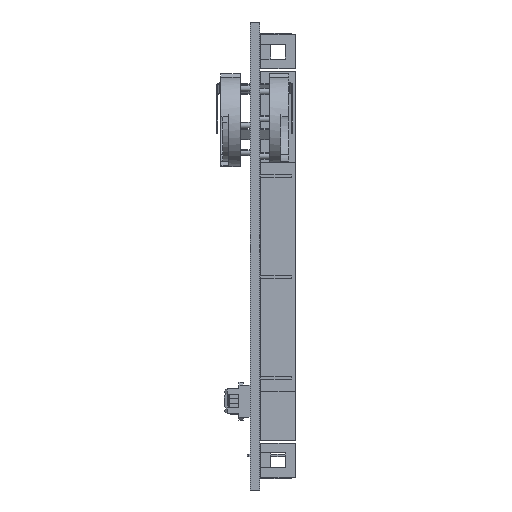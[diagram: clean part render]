
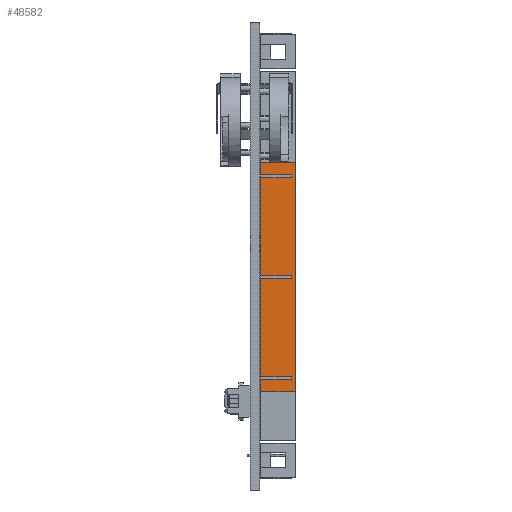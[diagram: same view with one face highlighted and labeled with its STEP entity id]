
A CAD part, left-side view. The second image highlights one B-rep face of the part: STEP entity #48582.
In plain terms, the highlighted planar face has unit normal (-1, 0, 0).
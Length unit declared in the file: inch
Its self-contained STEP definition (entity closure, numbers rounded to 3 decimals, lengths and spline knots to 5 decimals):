
#13185=DIRECTION('',(0.,0.,1.));
#13186=VECTOR('',#13185,2.3);
#13187=CARTESIAN_POINT('',(-4.02519,-0.35827,-1.712));
#13188=LINE('',#13187,#13186);
#13269=DIRECTION('',(0.,0.,1.));
#13270=VECTOR('',#13269,0.98465);
#13271=CARTESIAN_POINT('',(-4.02519,-0.01181,
-1.56043));
#13272=LINE('',#13271,#13270);
#13273=DIRECTION('',(0.,-1.,0.));
#13274=VECTOR('',#13273,0.30709);
#13275=CARTESIAN_POINT('',(-4.02519,-0.01181,
-0.57578));
#13276=LINE('',#13275,#13274);
#13277=DIRECTION('',(0.,1.,0.));
#13278=VECTOR('',#13277,0.30709);
#13279=CARTESIAN_POINT('',(-4.02519,-0.3189,
-0.54822));
#13280=LINE('',#13279,#13278);
#13281=DIRECTION('',(0.,0.,1.));
#13282=VECTOR('',#13281,0.98465);
#13283=CARTESIAN_POINT('',(-4.02519,-0.01181,
-0.54822));
#13284=LINE('',#13283,#13282);
#13285=DIRECTION('',(0.,-1.,0.));
#13286=VECTOR('',#13285,0.30709);
#13287=CARTESIAN_POINT('',(-4.02519,-0.01181,
0.43643));
#13288=LINE('',#13287,#13286);
#13289=DIRECTION('',(0.,1.,0.));
#13290=VECTOR('',#13289,0.30709);
#13291=CARTESIAN_POINT('',(-4.02519,-0.3189,
0.46398));
#13292=LINE('',#13291,#13290);
#13293=DIRECTION('',(0.,0.,1.));
#13294=VECTOR('',#13293,0.12402);
#13295=CARTESIAN_POINT('',(-4.02519,-0.01181,
0.46398));
#13296=LINE('',#13295,#13294);
#13297=DIRECTION('',(0.,-1.,0.));
#13298=VECTOR('',#13297,0.34646);
#13299=CARTESIAN_POINT('',(-4.02519,-0.01181,0.588));
#13300=LINE('',#13299,#13298);
#13301=DIRECTION('',(0.,1.,0.));
#13302=VECTOR('',#13301,0.34646);
#13303=CARTESIAN_POINT('',(-4.02519,-0.35827,-1.712));
#13304=LINE('',#13303,#13302);
#13305=DIRECTION('',(0.,0.,1.));
#13306=VECTOR('',#13305,0.12402);
#13307=CARTESIAN_POINT('',(-4.02519,-0.01181,-1.712));
#13308=LINE('',#13307,#13306);
#13309=DIRECTION('',(0.,-1.,0.));
#13310=VECTOR('',#13309,0.30709);
#13311=CARTESIAN_POINT('',(-4.02519,-0.01181,
-1.58798));
#13312=LINE('',#13311,#13310);
#13313=DIRECTION('',(0.,1.,0.));
#13314=VECTOR('',#13313,0.30709);
#13315=CARTESIAN_POINT('',(-4.02519,-0.3189,
-1.56043));
#13316=LINE('',#13315,#13314);
#13341=DIRECTION('',(0.,0.,-1.));
#13342=VECTOR('',#13341,0.02756);
#13343=CARTESIAN_POINT('',(-4.02519,-0.3189,
-0.54822));
#13344=LINE('',#13343,#13342);
#13377=DIRECTION('',(0.,0.,-1.));
#13378=VECTOR('',#13377,0.02756);
#13379=CARTESIAN_POINT('',(-4.02519,-0.3189,
0.46398));
#13380=LINE('',#13379,#13378);
#13413=DIRECTION('',(0.,0.,-1.));
#13414=VECTOR('',#13413,0.02756);
#13415=CARTESIAN_POINT('',(-4.02519,-0.3189,
-1.56043));
#13416=LINE('',#13415,#13414);
#25301=CARTESIAN_POINT('',(-4.02519,-0.01181,0.588));
#25302=VERTEX_POINT('',#25301);
#25303=CARTESIAN_POINT('',(-4.02519,-0.01181,
0.46398));
#25304=VERTEX_POINT('',#25303);
#25309=CARTESIAN_POINT('',(-4.02519,-0.01181,
0.43643));
#25310=VERTEX_POINT('',#25309);
#25311=CARTESIAN_POINT('',(-4.02519,-0.01181,
-0.54822));
#25312=VERTEX_POINT('',#25311);
#25317=CARTESIAN_POINT('',(-4.02519,-0.01181,
-0.57578));
#25318=VERTEX_POINT('',#25317);
#25319=CARTESIAN_POINT('',(-4.02519,-0.01181,
-1.56043));
#25320=VERTEX_POINT('',#25319);
#25325=CARTESIAN_POINT('',(-4.02519,-0.01181,
-1.58798));
#25326=VERTEX_POINT('',#25325);
#25327=CARTESIAN_POINT('',(-4.02519,-0.01181,-1.712));
#25328=VERTEX_POINT('',#25327);
#25699=CARTESIAN_POINT('',(-4.02519,-0.3189,
-1.56043));
#25700=VERTEX_POINT('',#25699);
#25703=CARTESIAN_POINT('',(-4.02519,-0.3189,
-1.58798));
#25704=VERTEX_POINT('',#25703);
#25705=CARTESIAN_POINT('',(-4.02519,-0.35827,-1.712));
#25706=VERTEX_POINT('',#25705);
#25727=CARTESIAN_POINT('',(-4.02519,-0.35827,0.588));
#25728=VERTEX_POINT('',#25727);
#25731=CARTESIAN_POINT('',(-4.02519,-0.3189,
0.46398));
#25732=VERTEX_POINT('',#25731);
#25735=CARTESIAN_POINT('',(-4.02519,-0.3189,
0.43643));
#25736=VERTEX_POINT('',#25735);
#25739=CARTESIAN_POINT('',(-4.02519,-0.3189,
-0.54822));
#25740=VERTEX_POINT('',#25739);
#25743=CARTESIAN_POINT('',(-4.02519,-0.3189,
-0.57578));
#25744=VERTEX_POINT('',#25743);
#48550=CARTESIAN_POINT('',(-4.02519,-0.18504,-0.562));
#48551=DIRECTION('',(1.,0.,0.));
#48552=DIRECTION('',(0.,0.,1.));
#48553=AXIS2_PLACEMENT_3D('',#48550,#48551,#48552);
#48554=PLANE('',#48553);
#48555=ORIENTED_EDGE('',*,*,#47270,.T.);
#48557=ORIENTED_EDGE('',*,*,#48556,.T.);
#48559=ORIENTED_EDGE('',*,*,#48558,.F.);
#48561=ORIENTED_EDGE('',*,*,#48560,.T.);
#48562=ORIENTED_EDGE('',*,*,#47262,.T.);
#48564=ORIENTED_EDGE('',*,*,#48563,.T.);
#48566=ORIENTED_EDGE('',*,*,#48565,.F.);
#48568=ORIENTED_EDGE('',*,*,#48567,.T.);
#48569=ORIENTED_EDGE('',*,*,#47254,.T.);
#48570=ORIENTED_EDGE('',*,*,#48387,.T.);
#48571=ORIENTED_EDGE('',*,*,#48418,.F.);
#48572=ORIENTED_EDGE('',*,*,#48538,.T.);
#48573=ORIENTED_EDGE('',*,*,#47278,.T.);
#48575=ORIENTED_EDGE('',*,*,#48574,.T.);
#48577=ORIENTED_EDGE('',*,*,#48576,.F.);
#48579=ORIENTED_EDGE('',*,*,#48578,.T.);
#48580=EDGE_LOOP('',(#48555,#48557,#48559,#48561,#48562,#48564,#48566,#48568,
#48569,#48570,#48571,#48572,#48573,#48575,#48577,#48579));
#48581=FACE_OUTER_BOUND('',#48580,.F.);
#48582=ADVANCED_FACE('',(#48581),#48554,.F.);
#47254=EDGE_CURVE('',#25304,#25302,#13296,.T.);
#47262=EDGE_CURVE('',#25312,#25310,#13284,.T.);
#47270=EDGE_CURVE('',#25320,#25318,#13272,.T.);
#47278=EDGE_CURVE('',#25328,#25326,#13308,.T.);
#48387=EDGE_CURVE('',#25302,#25728,#13300,.T.);
#48418=EDGE_CURVE('',#25706,#25728,#13188,.T.);
#48538=EDGE_CURVE('',#25706,#25328,#13304,.T.);
#48556=EDGE_CURVE('',#25318,#25744,#13276,.T.);
#48558=EDGE_CURVE('',#25740,#25744,#13344,.T.);
#48560=EDGE_CURVE('',#25740,#25312,#13280,.T.);
#48563=EDGE_CURVE('',#25310,#25736,#13288,.T.);
#48565=EDGE_CURVE('',#25732,#25736,#13380,.T.);
#48567=EDGE_CURVE('',#25732,#25304,#13292,.T.);
#48574=EDGE_CURVE('',#25326,#25704,#13312,.T.);
#48576=EDGE_CURVE('',#25700,#25704,#13416,.T.);
#48578=EDGE_CURVE('',#25700,#25320,#13316,.T.);
